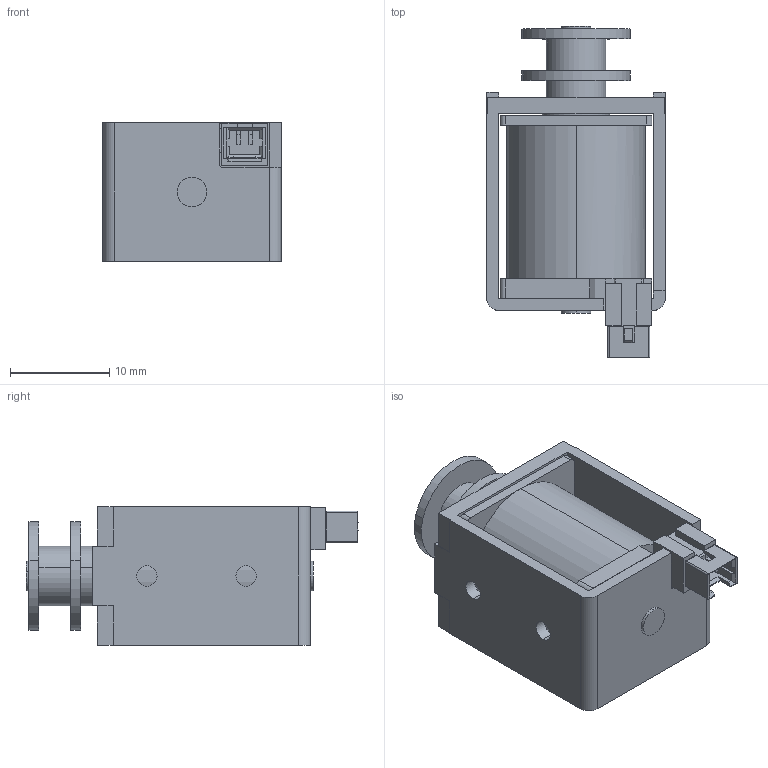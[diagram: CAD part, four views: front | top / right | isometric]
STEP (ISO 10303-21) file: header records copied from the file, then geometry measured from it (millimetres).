
FILE_DESCRIPTION (( 'STEP AP203' ), '1' );
FILE_NAME ('w_cfd0622.STEP', '2014-07-28T04:33:52', ( 'jiba' ), ( 'Hewlett-Packard Company' ), 'SwSTEP 2.0', 'SolidWorks 2014', '' );
FILE_SCHEMA (( 'CONFIG_CONTROL_DESIGN' ));
Length unit declared in the file: millimetre
Products named in the file (3): Part7^w_cfd0622; Part1^w_cfd0622_pl; w_cfd0622
Assembly tree (2 placements, depth 2):
  w_cfd0622
    Part7^w_cfd0622
    Part1^w_cfd0622_pl
Bounding box: 18 x 33.5 x 14 mm (x, y, z)
Volume: 4666.6 mm3; surface area: 4545.7 mm2
Topology: 2 solids, 2 shells, 253 faces, 697 edges, 439 vertices
Faces by surface type: plane 189, cylinder 58, bspline 6
Entity records: 8330 total; most frequent: CARTESIAN_POINT 1490, ORIENTED_EDGE 1394, DIRECTION 1323, EDGE_CURVE 697, VECTOR 571, LINE 571, VERTEX_POINT 439, AXIS2_PLACEMENT_3D 376
